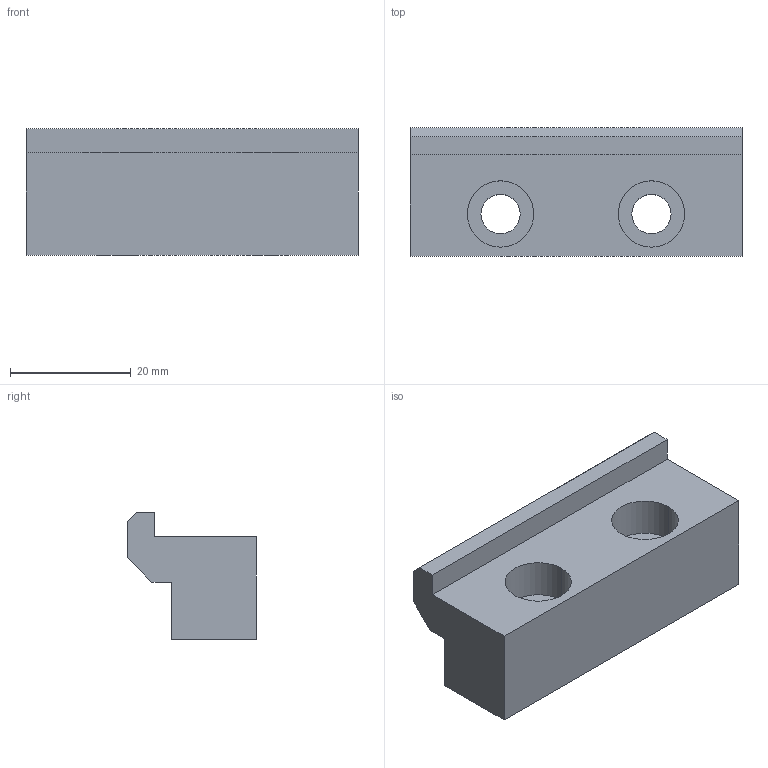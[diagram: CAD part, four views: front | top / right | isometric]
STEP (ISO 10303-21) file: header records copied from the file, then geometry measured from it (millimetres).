
FILE_DESCRIPTION((''),'2;1');
FILE_NAME('MB-60','2017-03-31T',('Owner'),(''),'PRO/ENGINEER BY PARAMETRIC TECHNOLOGY CORPORATION, 2009440','PRO/ENGINEER BY PARAMETRIC TECHNOLOGY CORPORATION, 2009440','');
FILE_SCHEMA(('CONFIG_CONTROL_DESIGN'));
Length unit declared in the file: millimetre
Products named in the file (1): MB-60
Bounding box: 55 x 21.3 x 21 mm (x, y, z)
Volume: 14657.1 mm3; surface area: 5824.4 mm2
Topology: 1 solids, 1 shells, 22 faces, 54 edges, 36 vertices
Faces by surface type: plane 14, cylinder 8
Entity records: 700 total; most frequent: DIRECTION 114, CARTESIAN_POINT 112, ORIENTED_EDGE 108, EDGE_CURVE 54, VECTOR 38, LINE 38, AXIS2_PLACEMENT_3D 38, VERTEX_POINT 36
